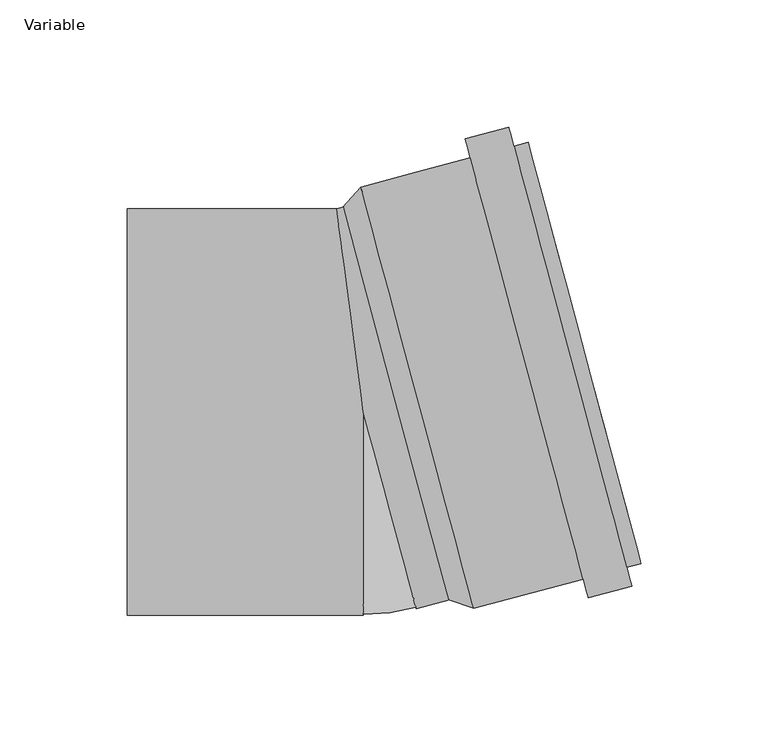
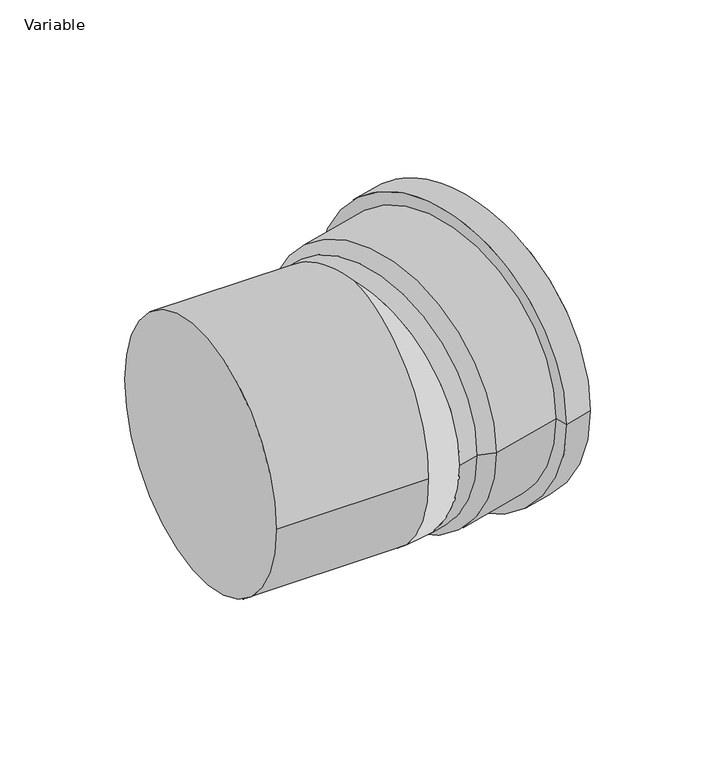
"""IFC4 building model written with IfcOpenShell, lengths in millimetres: pipe fitting geometry, AliaxisFR_Friaphon_ElbowMF_FR : Variable."""

from ifc_helpers import new_model, si_unit, point, frame, origin, place, context, project, spatial, polyline, circle_curve, ellipse_curve, trimmed, source, transform, mapped, element, save
from ifc_brep_helpers import plane_surface, cylinder_surface, revolved_surface, advanced_brep


def variable_a2bd2259(model_context):
    return source(origin(), model_context, "Body", "AdvancedBrep", [
        advanced_brep(
        [(109.1399984, -59.5827218, 0.0), (64.7266503, 106.17015, 0.0), (66.2278008, 100.5677802, 0.0), (107.638848, -53.980352, 0.0), (88.4336482, -73.1025983, 0.0), (40.0344867, 107.5255313, 0.0), (57.1313739, 112.1066284, 0.0), (105.5305353, -68.5215012, 0.0), (86.4407415, -65.6649694, 0.0), (42.0273934, 100.0879024, 0.0), (43.3604497, -77.2082988, 0.0), (-1.0528985, 88.544573, 0.0), (-7.9553027, 80.6904775, 0.0), (33.4557445, -73.8576547, 0.0), (103.5376286, -61.0838723, 0.0), (59.1242805, 104.6689995, 0.0)],
        [
            (0, 1, circle_curve(frame((86.9333244, 23.2937141, 0.0), z_axis=(0.9659258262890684, 0.25881904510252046, 0.0), x_axis=(-0.25881904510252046, 0.9659258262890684, 0.0)), 85.8)),
            (1, 2),
            (2, 3, circle_curve(frame((86.9333244, 23.2937141, 0.0), z_axis=(-0.9659258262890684, -0.25881904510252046, 0.0), x_axis=(-0.25881904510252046, 0.9659258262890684, 0.0)), 80.0)),
            (3, 0),
            (1, 0, circle_curve(frame((86.9333244, 23.2937141, 0.0), z_axis=(0.9659258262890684, 0.25881904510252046, 0.0), x_axis=(-0.25881904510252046, 0.9659258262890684, 0.0)), 85.8)),
            (3, 2, circle_curve(frame((86.9333244, 23.2937141, 0.0), z_axis=(-0.9659258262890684, -0.25881904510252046, 0.0), x_axis=(-0.25881904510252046, 0.9659258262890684, 0.0)), 80.0)),
            (4, 5, circle_curve(frame((64.2340674, 17.2114665, 0.0), z_axis=(0.9659258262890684, 0.25881904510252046, 0.0), x_axis=(-0.25881904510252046, 0.9659258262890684, 0.0)), 93.5)),
            (5, 6),
            (6, 7, circle_curve(frame((81.3309546, 21.7925636, 0.0), z_axis=(-0.9659258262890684, -0.25881904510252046, 0.0), x_axis=(-0.25881904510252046, 0.9659258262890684, 0.0)), 93.5)),
            (7, 4),
            (5, 4, circle_curve(frame((64.2340674, 17.2114665, 0.0), z_axis=(0.9659258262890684, 0.25881904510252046, 0.0), x_axis=(-0.25881904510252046, 0.9659258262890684, 0.0)), 93.5)),
            (7, 6, circle_curve(frame((81.3309546, 21.7925636, 0.0), z_axis=(-0.9659258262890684, -0.25881904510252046, 0.0), x_axis=(-0.25881904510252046, 0.9659258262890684, 0.0)), 93.5)),
            (8, 9, circle_curve(frame((64.2340674, 17.2114665, 0.0), z_axis=(0.9659258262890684, 0.25881904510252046, 0.0), x_axis=(-0.25881904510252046, 0.9659258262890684, 0.0)), 85.8)),
            (9, 5),
            (4, 8),
            (9, 8, circle_curve(frame((64.2340674, 17.2114665, 0.0), z_axis=(0.9659258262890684, 0.25881904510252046, 0.0), x_axis=(-0.25881904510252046, 0.9659258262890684, 0.0)), 85.8)),
            (10, 11, circle_curve(frame((21.1537756, 5.6681371, 0.0), z_axis=(0.9659258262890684, 0.25881904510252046, 0.0), x_axis=(-0.25881904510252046, 0.9659258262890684, 0.0)), 85.8)),
            (11, 9),
            (8, 10),
            (11, 10, circle_curve(frame((21.1537756, 5.6681371, 0.0), z_axis=(0.9659258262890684, 0.25881904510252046, 0.0), x_axis=(-0.25881904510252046, 0.9659258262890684, 0.0)), 85.8)),
            (2, 12),
            (12, 13, circle_curve(frame((12.7502209, 3.4164114, 0.0), z_axis=(-0.9659258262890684, -0.25881904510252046, 0.0), x_axis=(-0.25881904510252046, 0.9659258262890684, 0.0)), 80.0)),
            (13, 3),
            (13, 12, circle_curve(frame((12.7502209, 3.4164114, 0.0), z_axis=(-0.9659258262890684, -0.25881904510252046, 0.0), x_axis=(-0.25881904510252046, 0.9659258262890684, 0.0)), 80.0)),
            (12, 11),
            (10, 13),
            (14, 15, circle_curve(frame((81.3309546, 21.7925636, 0.0), z_axis=(0.9659258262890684, 0.25881904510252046, 0.0), x_axis=(-0.25881904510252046, 0.9659258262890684, 0.0)), 85.8)),
            (15, 1),
            (0, 14),
            (15, 14, circle_curve(frame((81.3309546, 21.7925636, 0.0), z_axis=(0.9659258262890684, 0.25881904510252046, 0.0), x_axis=(-0.25881904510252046, 0.9659258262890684, 0.0)), 85.8)),
            (6, 15),
            (14, 7),
        ],
        [
            plane_surface(frame((86.9333244, 23.2937141, 0.0), z_axis=(0.9659258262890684, 0.25881904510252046, 0.0), x_axis=(-0.25881904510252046, 0.9659258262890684, 0.0))),
            cylinder_surface(frame((12.7502209, 3.4164114, 0.0), z_axis=(-0.9659258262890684, -0.25881904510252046, 0.0), x_axis=(-0.25881904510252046, 0.9659258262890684, 0.0)), 93.5),
            plane_surface(frame((64.2340674, 17.2114665, 0.0), z_axis=(-0.9659258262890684, -0.25881904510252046, 0.0), x_axis=(-0.25881904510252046, 0.9659258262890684, 0.0))),
            cylinder_surface(frame((12.7502209, 3.4164114, 0.0), z_axis=(-0.9659258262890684, -0.25881904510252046, 0.0), x_axis=(-0.25881904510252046, 0.9659258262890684, 0.0)), 85.8),
            revolved_surface(polyline([(-7.9553027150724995, 80.69047750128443, 0.0), (66.2278008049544, 100.56778018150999, 0.0)]), (12.7502209, 3.4164114, 0.0), (-0.9659258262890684, -0.25881904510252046, 0.0)),
            revolved_surface(polyline([(-1.0528985, 88.544573, 0.0), (-7.9553027, 80.6904775, 0.0)]), (12.7502209, 3.4164114, 0.0), (-0.9659258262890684, -0.25881904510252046, 0.0)),
            plane_surface(frame((81.3309546, 21.7925636, 0.0), z_axis=(0.9659258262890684, 0.25881904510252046, 0.0), x_axis=(-0.25881904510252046, 0.9659258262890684, 0.0))),
        ],
        [
            (0, [[1, 2, 3, 4]]),
            (0, [[5, -4, 6, -2]]),
            (1, [[7, 8, 9, 10]]),
            (1, [[11, -10, 12, -8]]),
            (2, [[13, 14, -7, 15]]),
            (2, [[16, -15, -11, -14]]),
            (3, [[17, 18, -13, 19]]),
            (3, [[20, -19, -16, -18]]),
            (4, [[-3, 21, 22, 23]]),
            (4, [[-6, -23, 24, -21]]),
            (5, [[-22, 25, -17, 26]]),
            (5, [[-24, -26, -20, -25]]),
            (3, [[27, 28, -1, 29]]),
            (3, [[30, -29, -5, -28]]),
            (6, [[-9, 31, -27, 32]]),
            (6, [[-12, -32, -30, -31]]),
        ],
    ),
        advanced_brep(
        [(-2.3529329, 82.191628, 0.0), (39.0581143, -72.3565042, 0.0), (20.7055236, -77.2740661, 0.0), (-10.5321998, 80.0, 0.0), (0.0, 0.0, 80.0), (0.0, 0.0, -80.0), (-93.0, -80.0, 0.0), (-93.0, 80.0, 0.0), (0.0, -80.0, 0.0)],
        [
            (0, 1, circle_curve(frame((18.3525907, 4.9175619, 0.0), z_axis=(0.9659258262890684, 0.2588190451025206, 0.0), x_axis=(-0.2588190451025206, 0.9659258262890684, 0.0)), 80.0)),
            (1, 0, circle_curve(frame((18.3525907, 4.9175619, 0.0), z_axis=(0.9659258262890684, 0.2588190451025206, 0.0), x_axis=(-0.2588190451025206, 0.9659258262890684, 0.0)), 80.0)),
            (2, 1),
            (0, 3),
            (3, 4, ellipse_curve(frame((0.0, 0.0, 0.0), z_axis=(0.9914448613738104, 0.1305261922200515, 0.0), x_axis=(0.13052619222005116, -0.9914448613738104, 0.0)), 80.6903168, 80.0)),
            (4, 2, circle_curve(frame((0.0, 0.0, 0.0), z_axis=(0.9659258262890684, 0.2588190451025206, 0.0), x_axis=(-0.2588190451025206, 0.9659258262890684, 0.0)), 80.0)),
            (2, 5, circle_curve(frame((0.0, 0.0, 0.0), z_axis=(0.9659258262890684, 0.2588190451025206, 0.0), x_axis=(-0.2588190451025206, 0.9659258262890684, 0.0)), 80.0)),
            (5, 3, ellipse_curve(frame((0.0, 0.0, 0.0), z_axis=(0.9914448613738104, 0.1305261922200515, 0.0), x_axis=(0.13052619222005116, -0.9914448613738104, 0.0)), 80.6903168, 80.0)),
            (6, 7, circle_curve(frame((-93.0, 0.0, 0.0), z_axis=(-1.0, 0.0, 0.0), x_axis=(0.0, 1.0, 0.0)), 80.0)),
            (7, 6, circle_curve(frame((-93.0, 0.0, 0.0), z_axis=(-1.0, 0.0, 0.0), x_axis=(0.0, 1.0, 0.0)), 80.0)),
            (6, 8),
            (8, 4, circle_curve(frame((0.0, 0.0, 0.0), z_axis=(-1.0, 0.0, 0.0), x_axis=(0.0, 1.0, 0.0)), 80.0)),
            (3, 7),
            (5, 8, circle_curve(frame((0.0, 0.0, 0.0), z_axis=(-1.0, 0.0, 0.0), x_axis=(0.0, 1.0, 0.0)), 80.0)),
        ],
        [
            plane_surface(frame((18.3525907, 4.9175619, 0.0), z_axis=(0.9659258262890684, 0.25881904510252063, 0.0), x_axis=(0.0, 0.0, 1.0))),
            cylinder_surface(frame((0.0, 0.0, 0.0), z_axis=(-0.9659258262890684, -0.2588190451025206, 0.0), x_axis=(-0.2588190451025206, 0.9659258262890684, 0.0)), 80.0),
            plane_surface(frame((-93.0, 0.0, 0.0), z_axis=(-1.0, 0.0, 0.0), x_axis=(0.0, 0.0, 1.0))),
            cylinder_surface(frame((-93.0, 0.0, 0.0), z_axis=(-1.0, 0.0, 0.0), x_axis=(0.0, 1.0, 0.0)), 80.0),
            revolved_surface(trimmed(ellipse_curve(frame((0.0, 0.0, 0.0), z_axis=(0.9659258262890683, 0.2588190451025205, 0.0), x_axis=(-0.2588190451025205, 0.9659258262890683, 0.0)), 80.0, 80.0), [point((0.0, 0.0, 80.0))], [point((0.0, 0.0, -80.0))], True, "CARTESIAN"), (0.0, 0.0, 80.0), (0.0, 0.0, -1.0)),
        ],
        [
            (0, [[1, 2]]),
            (1, [[3, -1, 4, 5, 6]]),
            (1, [[-2, -3, 7, 8, -4]]),
            (2, [[9, 10]]),
            (3, [[-9, 11, 12, -5, 13]]),
            (3, [[-10, -13, -8, 14, -11]]),
            (4, [[-12, -14, -7, -6]]),
        ],
    ),
    ])


if __name__ == "__main__":
    model = new_model("IFC4")
    model_context = context("Model", 3, world=origin())
    ifc_project = project(units=[si_unit("LENGTHUNIT", "METRE", prefix="MILLI")], contexts=[model_context])
    site = spatial("IfcSite", under=ifc_project)
    building = spatial("IfcBuilding", under=site)
    placement = place(None, origin())
    variable_shape = variable_a2bd2259(model_context)
    element("IfcPipeFitting", 1, ObjectType="AliaxisFR_Friaphon_ElbowMF_FR : Variable", at=placement, inside=building, context=model_context, shape_type="MappedRepresentation", body=[
        mapped(variable_shape, transform((0.0, 0.0, 0.0), x_axis=(1.0, 0.0, 0.0), y_axis=(0.0, 1.0, 0.0), z_axis=(0.0, 0.0, 1.0))),
    ])
    save(model, "model.ifc")
